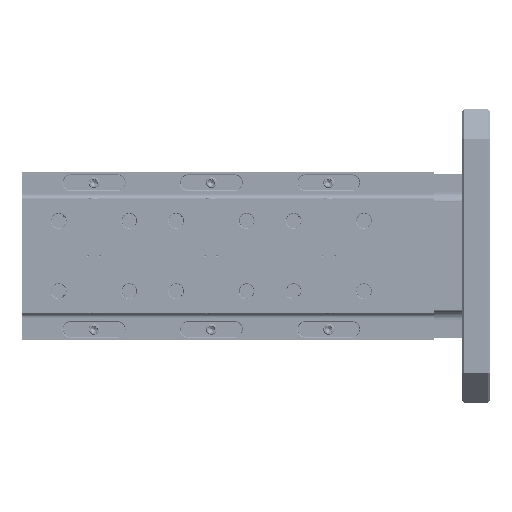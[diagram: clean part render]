
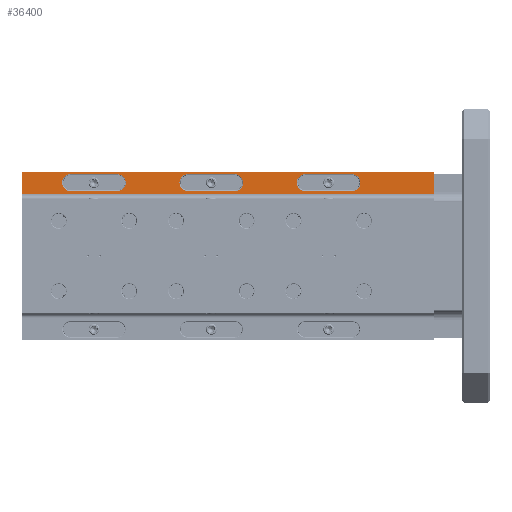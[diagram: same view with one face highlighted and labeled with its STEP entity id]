
A CAD part, left-side view. The second image highlights one B-rep face of the part: STEP entity #36400.
In plain terms, the highlighted planar face has unit normal (-1, 0, 0).
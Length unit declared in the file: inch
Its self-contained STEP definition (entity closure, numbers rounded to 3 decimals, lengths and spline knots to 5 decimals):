
#495 = ORIENTED_EDGE ( 'NONE', *, *, #896, .T. ) ;
#538 = VERTEX_POINT ( 'NONE', #10408 ) ;
#896 = EDGE_CURVE ( 'NONE', #33293, #6932, #1460, .T. ) ;
#1036 = VERTEX_POINT ( 'NONE', #4071 ) ;
#1175 = DIRECTION ( 'NONE',  ( 0., 0., -1. ) ) ;
#1248 = EDGE_CURVE ( 'NONE', #25344, #41156, #29309, .T. ) ;
#1450 = PLANE ( 'NONE',  #27985 ) ;
#1460 = LINE ( 'NONE', #5510, #9275 ) ;
#1746 = ORIENTED_EDGE ( 'NONE', *, *, #1248, .T. ) ;
#2932 = DIRECTION ( 'NONE',  ( 0., 1., 0. ) ) ;
#2987 = DIRECTION ( 'NONE',  ( 0., 0., -1. ) ) ;
#3303 = ORIENTED_EDGE ( 'NONE', *, *, #22555, .T. ) ;
#3703 = EDGE_LOOP ( 'NONE', ( #37514, #3919, #24541, #43086 ) ) ;
#3919 = ORIENTED_EDGE ( 'NONE', *, *, #31156, .T. ) ;
#4071 = CARTESIAN_POINT ( 'NONE',  ( -3.07087, 5.90642, 4.39051 ) ) ;
#4529 = DIRECTION ( 'NONE',  ( 1., 0., 0. ) ) ;
#4698 = DIRECTION ( 'NONE',  ( 0., 0., -1. ) ) ;
#5043 = FACE_OUTER_BOUND ( 'NONE', #46392, .T. ) ;
#5510 = CARTESIAN_POINT ( 'NONE',  ( -3.07087, 0., 4.52756 ) ) ;
#5992 = VERTEX_POINT ( 'NONE', #38314 ) ;
#6318 = CARTESIAN_POINT ( 'NONE',  ( -3.07087, 8.41642, 3.93701 ) ) ;
#6640 = DIRECTION ( 'NONE',  ( 0., -1., 0. ) ) ;
#6932 = VERTEX_POINT ( 'NONE', #24783 ) ;
#7086 = DIRECTION ( 'NONE',  ( 0., 0., -1. ) ) ;
#7362 = VERTEX_POINT ( 'NONE', #21319 ) ;
#7420 = EDGE_CURVE ( 'NONE', #41156, #5992, #7931, .T. ) ;
#7931 = CIRCLE ( 'NONE', #10219, 0.4535 ) ;
#7939 = ORIENTED_EDGE ( 'NONE', *, *, #15508, .T. ) ;
#8386 = FACE_BOUND ( 'NONE', #32141, .T. ) ;
#8777 = CIRCLE ( 'NONE', #12582, 0.4535 ) ;
#8926 = EDGE_CURVE ( 'NONE', #1036, #538, #28608, .T. ) ;
#9174 = VERTEX_POINT ( 'NONE', #43366 ) ;
#9275 = VECTOR ( 'NONE', #16009, 39.37008 ) ;
#9356 = VERTEX_POINT ( 'NONE', #24197 ) ;
#9774 = VERTEX_POINT ( 'NONE', #14639 ) ;
#10219 = AXIS2_PLACEMENT_3D ( 'NONE', #40438, #26545, #22258 ) ;
#10336 = CARTESIAN_POINT ( 'NONE',  ( -3.07087, 12.20563, 3.93701 ) ) ;
#10408 = CARTESIAN_POINT ( 'NONE',  ( -3.07087, 5.90642, 3.48351 ) ) ;
#10486 = VECTOR ( 'NONE', #22966, 39.37008 ) ;
#10687 = CARTESIAN_POINT ( 'NONE',  ( -3.07087, 18.50484, 3.48351 ) ) ;
#11165 = DIRECTION ( 'NONE',  ( 0., 1., 0. ) ) ;
#11832 = CARTESIAN_POINT ( 'NONE',  ( -3.07087, 14.71563, 4.39051 ) ) ;
#12308 = VECTOR ( 'NONE', #31546, 39.37008 ) ;
#12312 = ORIENTED_EDGE ( 'NONE', *, *, #8926, .T. ) ;
#12561 = DIRECTION ( 'NONE',  ( 0., 1., 0. ) ) ;
#12582 = AXIS2_PLACEMENT_3D ( 'NONE', #21601, #25182, #39768 ) ;
#12922 = ORIENTED_EDGE ( 'NONE', *, *, #25835, .T. ) ;
#13379 = CARTESIAN_POINT ( 'NONE',  ( -3.07087, 8.41642, 3.48351 ) ) ;
#13529 = VECTOR ( 'NONE', #39312, 39.37008 ) ;
#13544 = EDGE_CURVE ( 'NONE', #5992, #39737, #17120, .T. ) ;
#13545 = CARTESIAN_POINT ( 'NONE',  ( -3.07087, 12.20563, 4.39051 ) ) ;
#13775 = CARTESIAN_POINT ( 'NONE',  ( -3.07087, 18.50484, 4.39051 ) ) ;
#13791 = EDGE_CURVE ( 'NONE', #33865, #35164, #30498, .T. ) ;
#14639 = CARTESIAN_POINT ( 'NONE',  ( -3.07087, 23.62205, 3.32087 ) ) ;
#14893 = VERTEX_POINT ( 'NONE', #13545 ) ;
#15508 = EDGE_CURVE ( 'NONE', #39737, #25344, #8777, .T. ) ;
#15765 = CARTESIAN_POINT ( 'NONE',  ( -3.07087, 0., 4.52756 ) ) ;
#16009 = DIRECTION ( 'NONE',  ( 0., 1., 0. ) ) ;
#16989 = VECTOR ( 'NONE', #12561, 39.37008 ) ;
#17120 = LINE ( 'NONE', #13775, #17860 ) ;
#17562 = CARTESIAN_POINT ( 'NONE',  ( -3.07087, 14.71563, 3.93701 ) ) ;
#17860 = VECTOR ( 'NONE', #6640, 39.37008 ) ;
#18932 = EDGE_CURVE ( 'NONE', #9356, #1036, #42304, .T. ) ;
#18967 = VECTOR ( 'NONE', #2932, 39.37008 ) ;
#19149 = CIRCLE ( 'NONE', #45889, 0.4535 ) ;
#19565 = CARTESIAN_POINT ( 'NONE',  ( -3.07087, 5.90642, 3.93701 ) ) ;
#20472 = AXIS2_PLACEMENT_3D ( 'NONE', #6318, #35502, #2987 ) ;
#20713 = VECTOR ( 'NONE', #11165, 39.37008 ) ;
#21303 = DIRECTION ( 'NONE',  ( 1., 0., 0. ) ) ;
#21319 = CARTESIAN_POINT ( 'NONE',  ( -3.07087, 1.5, 3.32087 ) ) ;
#21601 = CARTESIAN_POINT ( 'NONE',  ( -3.07087, 18.50484, 3.93701 ) ) ;
#22075 = CARTESIAN_POINT ( 'NONE',  ( -3.07087, 12.20563, 4.39051 ) ) ;
#22088 = AXIS2_PLACEMENT_3D ( 'NONE', #10336, #21303, #35435 ) ;
#22258 = DIRECTION ( 'NONE',  ( 0., 0., -1. ) ) ;
#22309 = VECTOR ( 'NONE', #4698, 39.37008 ) ;
#22555 = EDGE_CURVE ( 'NONE', #538, #9174, #32025, .T. ) ;
#22955 = FACE_BOUND ( 'NONE', #3703, .T. ) ;
#22966 = DIRECTION ( 'NONE',  ( 0., 0., -1. ) ) ;
#23286 = AXIS2_PLACEMENT_3D ( 'NONE', #19565, #4529, #1175 ) ;
#24197 = CARTESIAN_POINT ( 'NONE',  ( -3.07087, 8.41642, 4.39051 ) ) ;
#24541 = ORIENTED_EDGE ( 'NONE', *, *, #34677, .T. ) ;
#24703 = VECTOR ( 'NONE', #27965, 39.37008 ) ;
#24783 = CARTESIAN_POINT ( 'NONE',  ( -3.07087, 23.62205, 4.52756 ) ) ;
#25046 = EDGE_CURVE ( 'NONE', #35164, #27872, #19149, .T. ) ;
#25182 = DIRECTION ( 'NONE',  ( 1., 0., 0. ) ) ;
#25233 = CARTESIAN_POINT ( 'NONE',  ( -3.07087, 12.20563, 3.48351 ) ) ;
#25344 = VERTEX_POINT ( 'NONE', #10687 ) ;
#25371 = LINE ( 'NONE', #35690, #18967 ) ;
#25835 = EDGE_CURVE ( 'NONE', #6932, #9774, #36544, .T. ) ;
#26266 = ORIENTED_EDGE ( 'NONE', *, *, #18932, .T. ) ;
#26442 = CARTESIAN_POINT ( 'NONE',  ( -3.07087, 23.62205, 4.52756 ) ) ;
#26545 = DIRECTION ( 'NONE',  ( 1., 0., 0. ) ) ;
#26656 = ORIENTED_EDGE ( 'NONE', *, *, #7420, .T. ) ;
#27155 = CARTESIAN_POINT ( 'NONE',  ( -3.07087, 14.71563, 3.48351 ) ) ;
#27872 = VERTEX_POINT ( 'NONE', #11832 ) ;
#27965 = DIRECTION ( 'NONE',  ( 0., 1., 0. ) ) ;
#27985 = AXIS2_PLACEMENT_3D ( 'NONE', #15765, #34927, #42553 ) ;
#28212 = ORIENTED_EDGE ( 'NONE', *, *, #32671, .F. ) ;
#28608 = CIRCLE ( 'NONE', #23286, 0.4535 ) ;
#29309 = LINE ( 'NONE', #43900, #20713 ) ;
#29682 = LINE ( 'NONE', #40911, #10486 ) ;
#29687 = EDGE_LOOP ( 'NONE', ( #26656, #31872, #7939, #1746 ) ) ;
#29918 = ORIENTED_EDGE ( 'NONE', *, *, #32387, .T. ) ;
#30498 = LINE ( 'NONE', #27155, #16989 ) ;
#31156 = EDGE_CURVE ( 'NONE', #27872, #14893, #35965, .T. ) ;
#31546 = DIRECTION ( 'NONE',  ( 0., -1., 0. ) ) ;
#31872 = ORIENTED_EDGE ( 'NONE', *, *, #13544, .T. ) ;
#32025 = LINE ( 'NONE', #13379, #24703 ) ;
#32141 = EDGE_LOOP ( 'NONE', ( #29918, #26266, #12312, #3303 ) ) ;
#32387 = EDGE_CURVE ( 'NONE', #9174, #9356, #35014, .T. ) ;
#32436 = DIRECTION ( 'NONE',  ( 1., 0., 0. ) ) ;
#32671 = EDGE_CURVE ( 'NONE', #7362, #9774, #25371, .T. ) ;
#33293 = VERTEX_POINT ( 'NONE', #46937 ) ;
#33865 = VERTEX_POINT ( 'NONE', #25233 ) ;
#34677 = EDGE_CURVE ( 'NONE', #14893, #33865, #42694, .T. ) ;
#34927 = DIRECTION ( 'NONE',  ( 1., 0., 0. ) ) ;
#35014 = CIRCLE ( 'NONE', #20472, 0.4535 ) ;
#35164 = VERTEX_POINT ( 'NONE', #42069 ) ;
#35435 = DIRECTION ( 'NONE',  ( 0., 0., -1. ) ) ;
#35502 = DIRECTION ( 'NONE',  ( 1., 0., 0. ) ) ;
#35690 = CARTESIAN_POINT ( 'NONE',  ( -3.07087, 0., 3.32087 ) ) ;
#35965 = LINE ( 'NONE', #22075, #13529 ) ;
#36400 = ADVANCED_FACE ( 'NONE', ( #8386, #22955, #45423, #5043 ), #1450, .F. ) ;
#36544 = LINE ( 'NONE', #26442, #22309 ) ;
#37514 = ORIENTED_EDGE ( 'NONE', *, *, #25046, .T. ) ;
#38314 = CARTESIAN_POINT ( 'NONE',  ( -3.07087, 21.01484, 4.39051 ) ) ;
#38428 = EDGE_CURVE ( 'NONE', #33293, #7362, #29682, .T. ) ;
#38749 = ORIENTED_EDGE ( 'NONE', *, *, #38428, .F. ) ;
#39036 = CARTESIAN_POINT ( 'NONE',  ( -3.07087, 21.01484, 3.48351 ) ) ;
#39312 = DIRECTION ( 'NONE',  ( 0., -1., 0. ) ) ;
#39737 = VERTEX_POINT ( 'NONE', #40810 ) ;
#39768 = DIRECTION ( 'NONE',  ( 0., 0., -1. ) ) ;
#40438 = CARTESIAN_POINT ( 'NONE',  ( -3.07087, 21.01484, 3.93701 ) ) ;
#40810 = CARTESIAN_POINT ( 'NONE',  ( -3.07087, 18.50484, 4.39051 ) ) ;
#40911 = CARTESIAN_POINT ( 'NONE',  ( -3.07087, 1.5, 4.52756 ) ) ;
#41156 = VERTEX_POINT ( 'NONE', #39036 ) ;
#42069 = CARTESIAN_POINT ( 'NONE',  ( -3.07087, 14.71563, 3.48351 ) ) ;
#42304 = LINE ( 'NONE', #42541, #12308 ) ;
#42541 = CARTESIAN_POINT ( 'NONE',  ( -3.07087, 5.90642, 4.39051 ) ) ;
#42553 = DIRECTION ( 'NONE',  ( 0., 0., -1. ) ) ;
#42694 = CIRCLE ( 'NONE', #22088, 0.4535 ) ;
#43086 = ORIENTED_EDGE ( 'NONE', *, *, #13791, .T. ) ;
#43366 = CARTESIAN_POINT ( 'NONE',  ( -3.07087, 8.41642, 3.48351 ) ) ;
#43900 = CARTESIAN_POINT ( 'NONE',  ( -3.07087, 21.01484, 3.48351 ) ) ;
#45423 = FACE_BOUND ( 'NONE', #29687, .T. ) ;
#45889 = AXIS2_PLACEMENT_3D ( 'NONE', #17562, #32436, #7086 ) ;
#46392 = EDGE_LOOP ( 'NONE', ( #38749, #495, #12922, #28212 ) ) ;
#46937 = CARTESIAN_POINT ( 'NONE',  ( -3.07087, 1.5, 4.52756 ) ) ;
